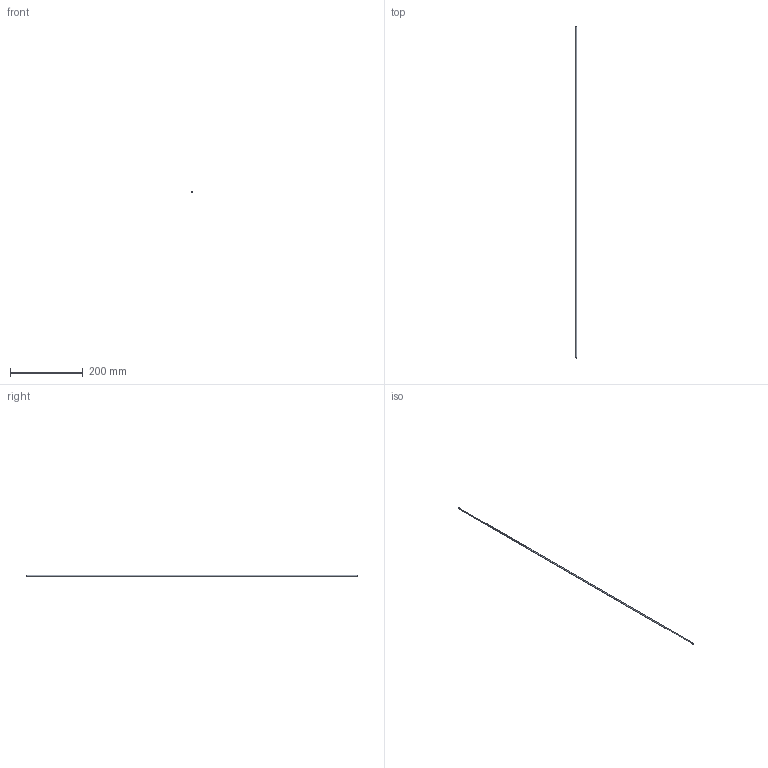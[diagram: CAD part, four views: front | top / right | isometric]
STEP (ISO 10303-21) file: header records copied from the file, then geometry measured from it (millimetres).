
FILE_DESCRIPTION(/* description */ (''),/* implementation_level */ '2;1');
FILE_NAME(/* name */ 'C:/Users/drich/Desktop/125T-236 v1.step',/* time_stamp */ '2019-12-27T17:25:23-06:00',/* author */ (''),/* organization */ (''),/* preprocessor_version */ 'ST-DEVELOPER v18',/* originating_system */ 'Autodesk Translation Framework v8.12.0.6',/* authorisation */ '');
FILE_SCHEMA (('AUTOMOTIVE_DESIGN { 1 0 10303 214 3 1 1 }'));
Length unit declared in the file: inch
Products named in the file (1): 125T-236
Bounding box: 3.1 x 914.4 x 3.1 mm (x, y, z)
Volume: 5160.4 mm3; surface area: 13354 mm2
Topology: 1 solids, 1 shells, 6 faces, 14 edges, 10 vertices
Faces by surface type: cone 2, cylinder 2, plane 2
Full cylindrical faces by diameter (mm): 1.549 x1, 3.096 x1
Entity records: 230 total; most frequent: DIRECTION 38, CARTESIAN_POINT 31, ORIENTED_EDGE 28, AXIS2_PLACEMENT_3D 17, EDGE_CURVE 14, CIRCLE 10, VERTEX_POINT 10, EDGE_LOOP 8
